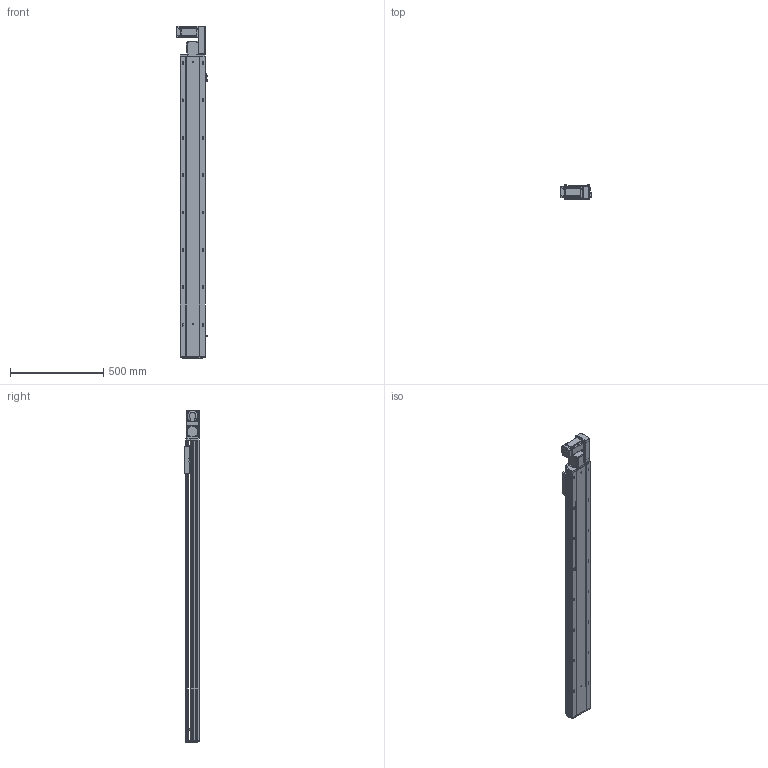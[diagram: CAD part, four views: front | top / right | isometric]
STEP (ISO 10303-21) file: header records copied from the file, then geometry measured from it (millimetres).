
FILE_DESCRIPTION (( 'STEP AP203' ), '1' );
FILE_NAME ('RY140-T-300-RK.SLDASM_1350.step', '2021-03-01T06:46:19', ( '盈信电脑' ), ( '东莞市道滘镇水果街19号' ), 'SwSTEP 2.0', 'SolidWorks 2012', '' );
FILE_SCHEMA (( 'CONFIG_CONTROL_DESIGN' ));
Products named in the file (17): RY120-T主同步轮轴承压盖; RY140-T-300-RK.SLDASM_1350; 15; RY140-T萇儂欶; RY120-T蹟翐M4; RY140-T翋肮謫裔啣; RY140-T萇儂假蚾啣; RY140-T翋肮祭謫盓傅釱; RY120-T肮祭湍揤踡輸1; RY120-T肮祭湍揤踡輸2; 滅袉蝶18-10; 覜茼ん672; RY120外置感应片(140共用）; RY140綴裔啣; RY140-T-300-DR倰第菁釱_1350; RY140-T-300-DR倰第奻裔啣_1350; RY140肮祭謫臏賑輸
Assembly tree (22 placements, depth 2):
  RY140-T-300-RK.SLDASM_1350
    RY140-T-300-DR倰第菁釱_1350
    RY140肮祭謫臏賑輸
    RY140-T-300-DR倰第奻裔啣_1350
    RY140綴裔啣
    覜茼ん672  x3
    RY120外置感应片(140共用）
    RY120-T肮祭湍揤踡輸2
    RY120-T肮祭湍揤踡輸1
    RY140-T翋肮祭謫盓傅釱
    滅袉蝶18-10  x2
    RY140-T翋肮謫裔啣
    RY140-T萇儂欶
    RY140-T萇儂假蚾啣
    RY120-T蹟翐M4  x4
    15
    RY120-T主同步轮轴承压盖
Bounding box: 170.7 x 78 x 1776.5 mm (x, y, z)
Volume: 4835464.4 mm3; surface area: 1865852.3 mm2
Topology: 22 solids, 22 shells, 2735 faces, 7477 edges, 4780 vertices
Faces by surface type: plane 1381, cylinder 1008, cone 246, bspline 100
Entity records: 86170 total; most frequent: CARTESIAN_POINT 20967, ORIENTED_EDGE 13394, DIRECTION 12785, EDGE_CURVE 6697, VERTEX_POINT 4379, LINE 4269, VECTOR 4269, AXIS2_PLACEMENT_3D 4258
